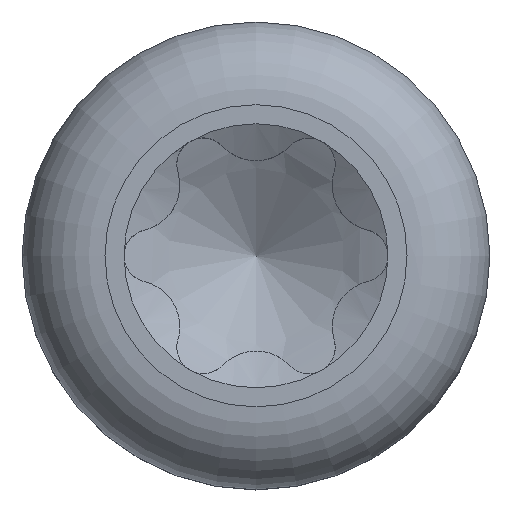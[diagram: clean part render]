
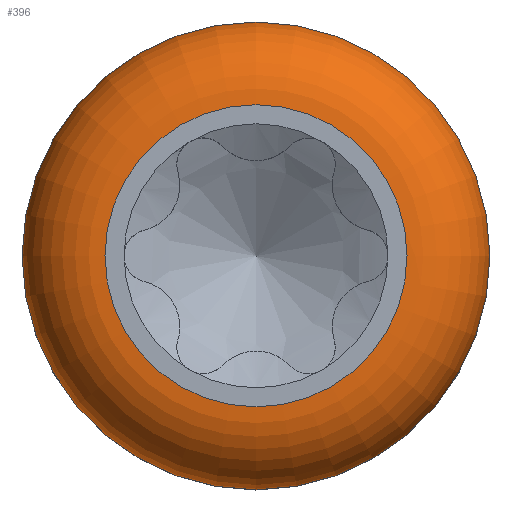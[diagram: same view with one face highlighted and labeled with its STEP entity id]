
A CAD part, top view. The second image highlights one B-rep face of the part: STEP entity #396.
In plain terms, the highlighted toroidal (fillet/blend) face has major radius 2.26 mm and minor radius 1.24 mm.
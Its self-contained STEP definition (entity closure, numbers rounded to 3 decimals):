
#356=TOROIDAL_SURFACE('',#2053,2.26,1.24);
#367=FACE_BOUND('',#672,.T.);
#368=FACE_BOUND('',#673,.T.);
#396=ADVANCED_FACE('',(#367,#368),#356,.T.);
#672=EDGE_LOOP('',(#891));
#673=EDGE_LOOP('',(#892));
#811=CIRCLE('',#2050,3.5);
#812=CIRCLE('',#2052,2.26);
#891=ORIENTED_EDGE('',*,*,#1641,.F.);
#892=ORIENTED_EDGE('',*,*,#1640,.T.);
#1465=VERTEX_POINT('',#4709);
#1466=VERTEX_POINT('',#4712);
#1640=EDGE_CURVE('',#1465,#1465,#811,.T.);
#1641=EDGE_CURVE('',#1466,#1466,#812,.T.);
#2050=AXIS2_PLACEMENT_3D('',#4708,#2118,#2119);
#2052=AXIS2_PLACEMENT_3D('',#4711,#2122,#2123);
#2053=AXIS2_PLACEMENT_3D('',#4713,#2124,#2125);
#2118=DIRECTION('',(0.,0.,1.));
#2119=DIRECTION('',(1.,0.,0.));
#2122=DIRECTION('',(0.,0.,1.));
#2123=DIRECTION('',(1.,0.,0.));
#2124=DIRECTION('',(0.,0.,1.));
#2125=DIRECTION('',(1.,0.,0.));
#4708=CARTESIAN_POINT('',(0.,0.,1.86));
#4709=CARTESIAN_POINT('',(3.5,0.,1.86));
#4711=CARTESIAN_POINT('',(0.,0.,3.1));
#4712=CARTESIAN_POINT('',(2.26,0.,3.1));
#4713=CARTESIAN_POINT('',(0.,0.,1.86));
